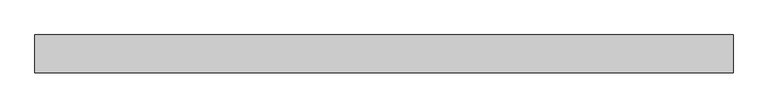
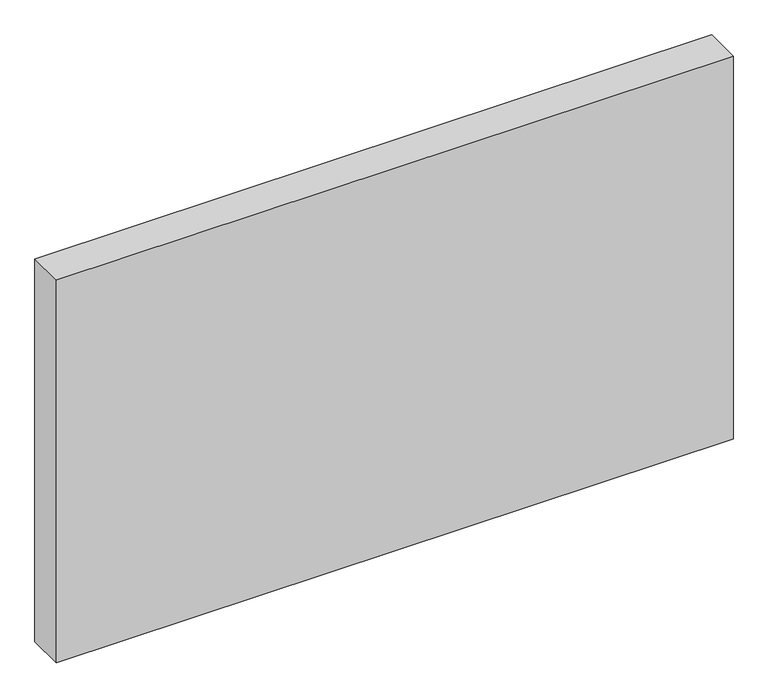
"""IFC4 building model written with IfcOpenShell, lengths in millimetres: plate geometry, 系统嵌板 : 玻璃."""

from ifc_helpers import new_model, si_unit, origin, origin_with_axes, place, context, project, spatial, polyline, outline, extrude, source, transform, mapped, element, save


def plate_0f27ba0c(model_context):
    return source(origin(), model_context, "Body", "SweptSolid", [
        extrude(outline(polyline([(918.7624395, -50.0), (-918.7624395, -50.0), (-918.7624395, 50.0), (918.7624395, 50.0), (918.7624395, -50.0)])), origin_with_axes(), (0.0, 0.0, 1.0), 1100.0),
    ])


if __name__ == "__main__":
    model = new_model("IFC4")
    model_context = context("Model", 3, world=origin())
    ifc_project = project(units=[si_unit("LENGTHUNIT", "METRE", prefix="MILLI")], contexts=[model_context])
    site = spatial("IfcSite", under=ifc_project)
    building = spatial("IfcBuilding", under=site)
    placement = place(None, origin())
    plate_shape = plate_0f27ba0c(model_context)
    element("IfcPlate", 1, ObjectType="系统嵌板 : 玻璃", at=placement, inside=building, context=model_context, shape_type="MappedRepresentation", body=[
        mapped(plate_shape, transform((0.0, 0.0, 0.0), x_axis=(1.0, 0.0, 0.0), y_axis=(0.0, 1.0, 0.0), z_axis=(0.0, 0.0, 1.0))),
    ])
    save(model, "model.ifc")
